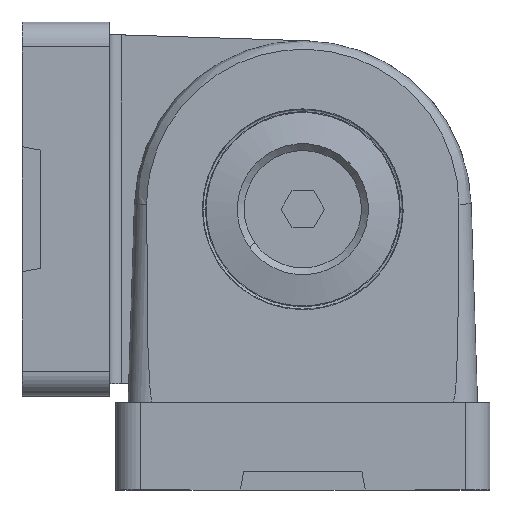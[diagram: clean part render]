
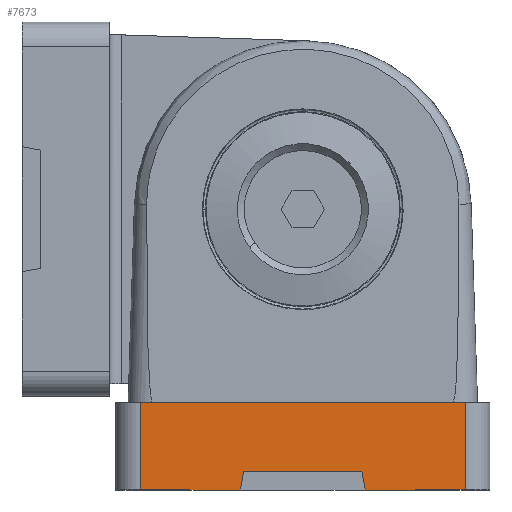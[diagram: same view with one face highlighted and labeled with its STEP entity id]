
A CAD part, front view. The second image highlights one B-rep face of the part: STEP entity #7673.
In plain terms, the highlighted planar face has unit normal (0, -1, 0) as drawn and (0, 0, -1) by its records, which use the part's own axes.
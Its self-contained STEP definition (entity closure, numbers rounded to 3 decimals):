
#17 = EDGE_CURVE ( 'NONE', #8586, #10263, #5608, .T. ) ;
#85 = FACE_OUTER_BOUND ( 'NONE', #7566, .T. ) ;
#142 = CARTESIAN_POINT ( 'NONE',  ( 13., -22.5, -15. ) ) ;
#795 = CARTESIAN_POINT ( 'NONE',  ( -13., -22.5, -15. ) ) ;
#1086 = DIRECTION ( 'NONE',  ( -1., 0., 0. ) ) ;
#1111 = DIRECTION ( 'NONE',  ( 0., -1., 0. ) ) ;
#1256 = LINE ( 'NONE', #11190, #5047 ) ;
#1432 = VECTOR ( 'NONE', #3935, 1000. ) ;
#1786 = LINE ( 'NONE', #795, #3546 ) ;
#1800 = CARTESIAN_POINT ( 'NONE',  ( -13., -22.5, -15. ) ) ;
#1831 = ORIENTED_EDGE ( 'NONE', *, *, #3327, .T. ) ;
#1879 = CARTESIAN_POINT ( 'NONE',  ( 13., -21., -15. ) ) ;
#1906 = CARTESIAN_POINT ( 'NONE',  ( -4.736, -21., -15. ) ) ;
#2729 = VERTEX_POINT ( 'NONE', #11673 ) ;
#2968 = VECTOR ( 'NONE', #5589, 1000. ) ;
#3129 = CARTESIAN_POINT ( 'NONE',  ( -5., -22.5, -15. ) ) ;
#3327 = EDGE_CURVE ( 'NONE', #5928, #9455, #12116, .T. ) ;
#3500 = ORIENTED_EDGE ( 'NONE', *, *, #6542, .T. ) ;
#3505 = CARTESIAN_POINT ( 'NONE',  ( 13., -22.5, -15. ) ) ;
#3546 = VECTOR ( 'NONE', #9124, 1000. ) ;
#3804 = CARTESIAN_POINT ( 'NONE',  ( 4.736, -21., -15. ) ) ;
#3935 = DIRECTION ( 'NONE',  ( 1., 0., 0. ) ) ;
#4017 = EDGE_CURVE ( 'NONE', #10263, #7734, #6786, .T. ) ;
#4235 = CARTESIAN_POINT ( 'NONE',  ( 13., -15.5, -15. ) ) ;
#4803 = AXIS2_PLACEMENT_3D ( 'NONE', #3505, #11039, #1086 ) ;
#4836 = VERTEX_POINT ( 'NONE', #1906 ) ;
#4924 = VECTOR ( 'NONE', #8284, 1000. ) ;
#5047 = VECTOR ( 'NONE', #11127, 1000. ) ;
#5111 = VECTOR ( 'NONE', #1111, 1000. ) ;
#5385 = DIRECTION ( 'NONE',  ( -1., 0., 0. ) ) ;
#5437 = ORIENTED_EDGE ( 'NONE', *, *, #11113, .T. ) ;
#5439 = VECTOR ( 'NONE', #7912, 1000. ) ;
#5505 = ORIENTED_EDGE ( 'NONE', *, *, #17, .T. ) ;
#5589 = DIRECTION ( 'NONE',  ( -1., 0., 0. ) ) ;
#5608 = LINE ( 'NONE', #10470, #1432 ) ;
#5647 = EDGE_CURVE ( 'NONE', #8586, #9455, #1786, .T. ) ;
#5928 = VERTEX_POINT ( 'NONE', #3129 ) ;
#6011 = LINE ( 'NONE', #9764, #5439 ) ;
#6542 = EDGE_CURVE ( 'NONE', #10003, #4836, #9406, .T. ) ;
#6582 = PLANE ( 'NONE',  #4803 ) ;
#6786 = LINE ( 'NONE', #7122, #5111 ) ;
#6896 = EDGE_CURVE ( 'NONE', #2729, #10003, #9207, .T. ) ;
#7122 = CARTESIAN_POINT ( 'NONE',  ( 13., -22.5, -15. ) ) ;
#7263 = ORIENTED_EDGE ( 'NONE', *, *, #4017, .T. ) ;
#7566 = EDGE_LOOP ( 'NONE', ( #5437, #7849, #3500, #8946, #1831, #9496, #5505, #7263 ) ) ;
#7610 = CARTESIAN_POINT ( 'NONE',  ( -13., -22.5, -15. ) ) ;
#7621 = CARTESIAN_POINT ( 'NONE',  ( 5., -22.5, -15. ) ) ;
#7673 = ADVANCED_FACE ( 'NONE', ( #85 ), #6582, .T. ) ;
#7734 = VERTEX_POINT ( 'NONE', #142 ) ;
#7849 = ORIENTED_EDGE ( 'NONE', *, *, #6896, .T. ) ;
#7912 = DIRECTION ( 'NONE',  ( -1., 0., 0. ) ) ;
#8284 = DIRECTION ( 'NONE',  ( -0.174, 0.985, 0. ) ) ;
#8586 = VERTEX_POINT ( 'NONE', #9621 ) ;
#8946 = ORIENTED_EDGE ( 'NONE', *, *, #11158, .T. ) ;
#9124 = DIRECTION ( 'NONE',  ( 0., -1., 0. ) ) ;
#9207 = LINE ( 'NONE', #7621, #4924 ) ;
#9406 = LINE ( 'NONE', #1879, #2968 ) ;
#9432 = VECTOR ( 'NONE', #5385, 1000. ) ;
#9455 = VERTEX_POINT ( 'NONE', #7610 ) ;
#9496 = ORIENTED_EDGE ( 'NONE', *, *, #5647, .F. ) ;
#9621 = CARTESIAN_POINT ( 'NONE',  ( -13., -15.5, -15. ) ) ;
#9764 = CARTESIAN_POINT ( 'NONE',  ( -13., -22.5, -15. ) ) ;
#10003 = VERTEX_POINT ( 'NONE', #3804 ) ;
#10263 = VERTEX_POINT ( 'NONE', #4235 ) ;
#10470 = CARTESIAN_POINT ( 'NONE',  ( 13., -15.5, -15. ) ) ;
#11039 = DIRECTION ( 'NONE',  ( 0., 0., -1. ) ) ;
#11113 = EDGE_CURVE ( 'NONE', #7734, #2729, #6011, .T. ) ;
#11127 = DIRECTION ( 'NONE',  ( -0.174, -0.985, 0. ) ) ;
#11158 = EDGE_CURVE ( 'NONE', #4836, #5928, #1256, .T. ) ;
#11190 = CARTESIAN_POINT ( 'NONE',  ( -4.736, -21., -15. ) ) ;
#11673 = CARTESIAN_POINT ( 'NONE',  ( 5., -22.5, -15. ) ) ;
#12116 = LINE ( 'NONE', #1800, #9432 ) ;
